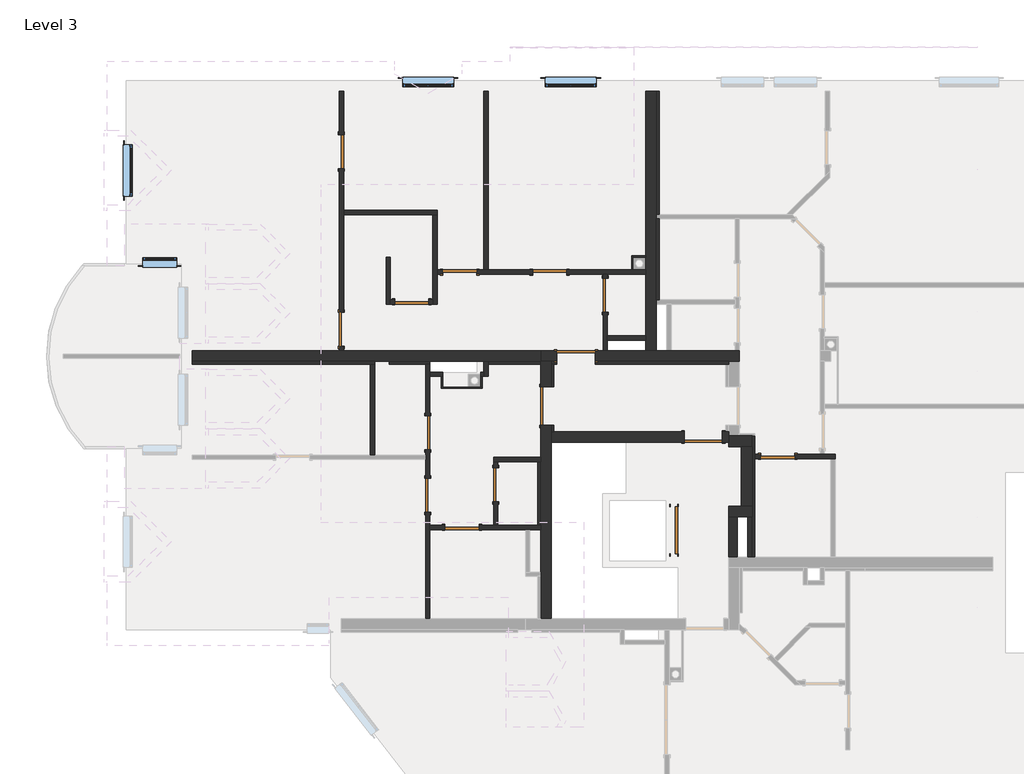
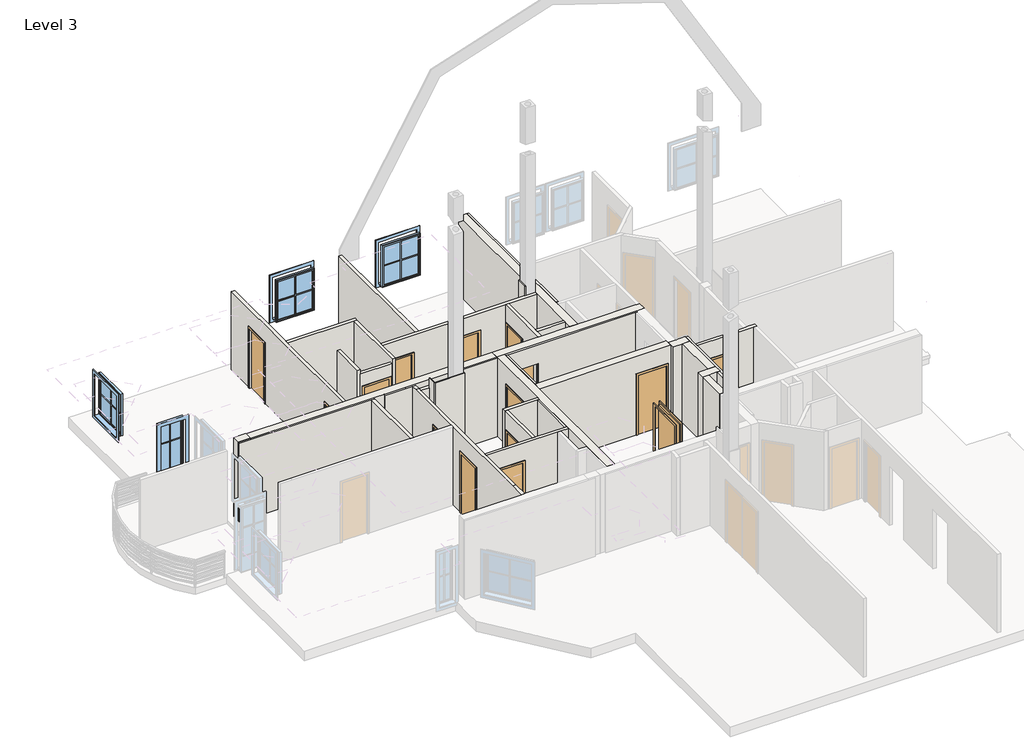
# One storey, part 2 of 5: 42 walls, 15 doors, 4 windows.
"""IFC4 building model written with IfcOpenShell, lengths in millimetres."""

from ifc_helpers import new_model, si_unit, frame, origin, place, context, project, spatial, polyline, outline, extrude, faceted_brep, transform, mapped, element, save
from components import standard_door_sd_1100x2000_1d62120a, standard_door_sd_800x2000_6a16926d, standard_door_sd_800x2000_80f4ff25, standard_door_sd_900x2000_a6683946, standard_door_sd_900x2000_4224ae2a, standard_window_with_mullions_80486b60, window_2_78aac011

model = new_model("IFC4")

# Units and contexts
model_context = context("Model", 3, world=origin())
ifc_project = project(units=[si_unit("LENGTHUNIT", "METRE", prefix="MILLI")], contexts=[model_context])

# Site, building, storey
site = spatial("IfcSite", under=ifc_project)
building = spatial("IfcBuilding", under=site)
storey = spatial("IfcBuildingStorey", under=building, Name="Level 3", Elevation=8850.0)

# Doors
placement = place(None, origin())
standard_door_sd_1100x2000_shape = standard_door_sd_1100x2000_1d62120a(model_context)
element("IfcDoor", 1, ObjectType="Standard Door : SD 1100x2000", at=placement, inside=storey, context=model_context, shape_type="MappedRepresentation", body=[
    mapped(standard_door_sd_1100x2000_shape, transform((277.8037835, 250.1290541, 8850.0), x_axis=(0.0, -1.0, 0.0), y_axis=(1.0, 0.0, 0.0), z_axis=(0.0, 0.0, 1.0))),
])
standard_door_sd_800x2000_shape = standard_door_sd_800x2000_6a16926d(model_context)
element("IfcDoor", 2, ObjectType="Standard Door : SD 800x2000", at=placement, inside=storey, context=model_context, shape_type="MappedRepresentation", body=[
    mapped(standard_door_sd_800x2000_shape, transform((2717.8037831, 1986.2076978, 8850.0), x_axis=(1.0, 0.0, 0.0), y_axis=(0.0, 1.0, 0.0), z_axis=(0.0, 0.0, 1.0))),
])
element("IfcDoor", 3, ObjectType="Standard Door : SD 800x2000", at=placement, inside=storey, context=model_context, shape_type="MappedRepresentation", body=[
    mapped(standard_door_sd_800x2000_shape, transform((-3907.1962165, 1323.3830769, 8850.0), x_axis=(0.0, -0.9999999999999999, 0.0), y_axis=(0.9999999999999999, 0.0, 0.0), z_axis=(0.0, 0.0, 1.0))),
])
element("IfcDoor", 4, ObjectType="Standard Door : SD 800x2000", at=placement, inside=storey, context=model_context, shape_type="MappedRepresentation", body=[
    mapped(standard_door_sd_800x2000_shape, transform((-5507.1962165, 1074.0740268, 8850.0), x_axis=(0.0, -1.0, 0.0), y_axis=(1.0, 0.0, 0.0), z_axis=(0.0, 0.0, 1.0))),
])
element("IfcDoor", 5, ObjectType="Standard Door : SD 800x2000", at=placement, inside=storey, context=model_context, shape_type="MappedRepresentation", body=[
    mapped(standard_door_sd_800x2000_shape, transform((-4702.5873933, 317.6290541, 8850.0), x_axis=(1.0, 0.0, 0.0), y_axis=(0.0, 1.0, 0.0), z_axis=(0.0, 0.0, 1.0))),
])
element("IfcDoor", 6, ObjectType="Standard Door : SD 800x2000", at=placement, inside=storey, context=model_context, shape_type="MappedRepresentation", body=[
    mapped(standard_door_sd_800x2000_shape, transform((-4754.8758057, 6317.6290541, 8850.0), x_axis=(-1.0, 0.0, 0.0), y_axis=(0.0, -1.0, 0.0), z_axis=(0.0, 0.0, 1.0))),
])
element("IfcDoor", 7, ObjectType="Standard Door : SD 800x2000", at=placement, inside=storey, context=model_context, shape_type="MappedRepresentation", body=[
    mapped(standard_door_sd_800x2000_shape, transform((-1337.1962165, 5771.0654579, 8850.0), x_axis=(0.0, -1.0, 0.0), y_axis=(1.0, 0.0, 0.0), z_axis=(0.0, 0.0, 1.0))),
])
element("IfcDoor", 8, ObjectType="Standard Door : SD 800x2000", at=placement, inside=storey, context=model_context, shape_type="MappedRepresentation", body=[
    mapped(standard_door_sd_800x2000_shape, transform((-5880.7146608, 5617.6290541, 8850.0), x_axis=(0.9999999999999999, 0.0, 0.0), y_axis=(0.0, 0.9999999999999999, 0.0), z_axis=(0.0, 0.0, 1.0))),
])
standard_door_sd_800x2000_2_shape = standard_door_sd_800x2000_80f4ff25(model_context)
element("IfcDoor", 9, ObjectType="Standard Door : SD 800x2000", at=placement, inside=storey, context=model_context, shape_type="MappedRepresentation", body=[
    mapped(standard_door_sd_800x2000_2_shape, transform((-5507.1962165, 2544.4942534, 8850.0), x_axis=(0.0, -1.0, 0.0), y_axis=(1.0, 0.0, 0.0), z_axis=(0.0, 0.0, 1.0))),
])
element("IfcDoor", 10, ObjectType="Standard Door : SD 800x2000", at=placement, inside=storey, context=model_context, shape_type="MappedRepresentation", body=[
    mapped(standard_door_sd_800x2000_2_shape, transform((-7537.1962165, 9151.243393, 8850.0), x_axis=(0.0, -1.0, 0.0), y_axis=(1.0, 0.0, 0.0), z_axis=(0.0, 0.0, 1.0))),
])
element("IfcDoor", 11, ObjectType="Standard Door : SD 800x2000", at=placement, inside=storey, context=model_context, shape_type="MappedRepresentation", body=[
    mapped(standard_door_sd_800x2000_2_shape, transform((-2646.4866772, 6317.6290541, 8850.0), x_axis=(1.0, 0.0, 0.0), y_axis=(0.0, 1.0, 0.0), z_axis=(0.0, 0.0, 1.0))),
])
element("IfcDoor", 12, ObjectType="Standard Door : SD 800x2000", at=placement, inside=storey, context=model_context, shape_type="MappedRepresentation", body=[
    mapped(standard_door_sd_800x2000_2_shape, transform((-7537.1962165, 4978.4889536, 8850.0), x_axis=(0.0, 1.0, 0.0), y_axis=(-1.0, 0.0, 0.0), z_axis=(0.0, 0.0, 1.0))),
])
standard_door_sd_900x2000_shape = standard_door_sd_900x2000_a6683946(model_context)
element("IfcDoor", 13, ObjectType="Standard Door : SD 900x2000", at=placement, inside=storey, context=model_context, shape_type="MappedRepresentation", body=[
    mapped(standard_door_sd_900x2000_shape, transform((-2732.1962165, 3171.1987133, 8850.0), x_axis=(0.0, -0.9999999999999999, 0.0), y_axis=(0.9999999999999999, 0.0, 0.0), z_axis=(0.0, 0.0, 1.0))),
])
element("IfcDoor", 14, ObjectType="Standard Door : SD 900x2000", at=placement, inside=storey, context=model_context, shape_type="MappedRepresentation", body=[
    mapped(standard_door_sd_900x2000_shape, transform((-2027.1962165, 4342.6290541, 8850.0), x_axis=(-1.0, 0.0, 0.0), y_axis=(0.0, -1.0, 0.0), z_axis=(0.0, 0.0, 1.0))),
])
standard_door_sd_900x2000_2_shape = standard_door_sd_900x2000_4224ae2a(model_context)
element("IfcDoor", 15, ObjectType="Standard Door : SD 900x2000", at=placement, inside=storey, context=model_context, shape_type="MappedRepresentation", body=[
    mapped(standard_door_sd_900x2000_2_shape, transform((967.0786115, 2442.6290541, 8850.0), x_axis=(-1.0, 0.0, 0.0), y_axis=(0.0, -1.0, 0.0), z_axis=(0.0, 0.0, 1.0))),
])

# Walls
element("IfcWall", 16, ObjectType="Interior - 100mm", at=placement, inside=storey, context=model_context, shape_type="Brep", body=[
    faceted_brep([(-1387.1962165, 4467.6290541, 8850.0), (-1387.1962165, 5371.0654579, 8850.0), (-1287.1962165, 5371.0654579, 8850.0), (-1287.1962165, 4817.6290541, 8850.0), (-1287.1962165, 4717.6290541, 8850.0), (-1287.1962165, 4467.6290541, 8850.0), (-1387.1962165, 6171.0654579, 8850.0), (-1387.1962165, 6267.6290541, 8850.0), (-1287.1962165, 6267.6290541, 8850.0), (-1287.1962165, 6171.0654579, 8850.0), (-1287.1962165, 5371.0654579, 10850.0), (-1287.1962165, 6171.0654579, 10850.0), (-1287.1962165, 6267.6290541, 11480.0), (-1287.1962165, 4817.6290541, 11480.0), (-1287.1962165, 4717.6290541, 11480.0), (-1287.1962165, 4467.6290541, 11480.0), (-1387.1962165, 5371.0654579, 10850.0), (-1387.1962165, 4467.6290541, 11480.0), (-1387.1962165, 6267.6290541, 11480.0), (-1387.1962165, 6171.0654579, 10850.0)], [[[0, 1, 2, 3, 4, 5]], [[6, 7, 8, 9]], [[5, 4, 3, 2, 10, 11, 9, 8, 12, 13, 14, 15]], [[16, 1, 0, 17, 18, 7, 6, 19]], [[5, 15, 17, 0]], [[12, 8, 7, 18]], [[15, 14, 13, 12, 18, 17]], [[10, 2, 1, 16]], [[11, 10, 16, 19]], [[9, 11, 19, 6]]]),
])
element("IfcWall", 17, ObjectType="Interior - 100mm", at=placement, inside=storey, context=model_context, shape_type="SweptSolid", body=[
    extrude(outline(polyline([(-387.1962165, 4717.6290541), (-1287.1962165, 4717.6290541), (-1287.1962165, 4817.6290541), (-387.1962165, 4817.6290541), (-387.1962165, 4717.6290541)])), frame((0.0, 0.0, 8850.0), z_axis=(0.0, 0.0, 1.0), x_axis=(1.0, 0.0, 0.0)), (0.0, 0.0, 1.0), 2630.0),
])
element("IfcWall", 18, ObjectType="Interior - 100mm", at=placement, inside=storey, context=model_context, shape_type="Brep", body=[
    faceted_brep([(-4187.1962165, 3967.6290541, 8850.0), (-4257.1962165, 3967.6290541, 8850.0), (-4257.1962165, 3967.6290541, 11480.0), (-4187.1962165, 3967.6290541, 11480.0), (-4187.1962165, 3867.6290541, 8850.0), (-4187.1962165, 3867.6290541, 11480.0), (-4257.1962165, 3867.6290541, 11480.0), (-4257.1962165, 3867.6290541, 8850.0), (-4227.1962165, 3867.6290541, 8850.0)], [[[0, 1, 2, 3]], [[4, 5, 6, 7, 8]], [[1, 0, 4, 8, 7]], [[2, 1, 7, 6]], [[0, 3, 5, 4]], [[3, 2, 6, 5]]]),
])
element("IfcWall", 19, ObjectType="Interior - 100mm", at=placement, inside=storey, context=model_context, shape_type="Brep", body=[
    faceted_brep([(-5157.1962165, 3967.6290541, 8850.0), (-5457.1962165, 3967.6290541, 8850.0), (-5457.1962165, 3967.6290541, 11480.0), (-5157.1962165, 3967.6290541, 11480.0), (-5157.1962165, 3867.6290541, 8850.0), (-5157.1962165, 3867.6290541, 11480.0), (-5457.1962165, 3867.6290541, 11480.0), (-5457.1962165, 3867.6290541, 8850.0), (-5187.1962165, 3867.6290541, 8850.0)], [[[0, 1, 2, 3]], [[4, 5, 6, 7, 8]], [[1, 0, 4, 8, 7]], [[0, 3, 5, 4]], [[2, 1, 7, 6]], [[3, 2, 6, 5]]]),
])
element("IfcWall", 20, ObjectType="Interior - 100mm", at=placement, inside=storey, context=model_context, shape_type="Brep", body=[
    faceted_brep([(-2857.1962165, 267.6290541, 8850.0), (-3107.1962165, 267.6290541, 8850.0), (-3207.1962165, 267.6290541, 8850.0), (-4302.5873933, 267.6290541, 8850.0), (-4302.5873933, 367.6290541, 8850.0), (-3957.1962165, 367.6290541, 8850.0), (-3857.1962165, 367.6290541, 8850.0), (-2922.1962165, 367.6290541, 8850.0), (-2857.1962165, 367.6290541, 8850.0), (-5102.5873933, 267.6290541, 8850.0), (-5457.1962165, 267.6290541, 8850.0), (-5457.1962165, 367.6290541, 8850.0), (-5102.5873933, 367.6290541, 8850.0), (-4302.5873933, 267.6290541, 10850.0), (-2857.1962165, 267.6290541, 11480.0), (-3107.1962165, 267.6290541, 11480.0), (-3207.1962165, 267.6290541, 11480.0), (-5457.1962165, 267.6290541, 11480.0), (-5102.5873933, 267.6290541, 10850.0), (-4302.5873933, 367.6290541, 10850.0), (-5102.5873933, 367.6290541, 10850.0), (-5457.1962165, 367.6290541, 11480.0), (-3957.1962165, 367.6290541, 11480.0), (-3857.1962165, 367.6290541, 11480.0), (-2922.1962165, 367.6290541, 11480.0), (-2857.1962165, 367.6290541, 11480.0)], [[[0, 1, 2, 3, 4, 5, 6, 7, 8]], [[9, 10, 11, 12]], [[13, 3, 2, 1, 0, 14, 15, 16, 17, 10, 9, 18]], [[8, 7, 6, 5, 4, 19, 20, 12, 11, 21, 22, 23, 24, 25]], [[14, 0, 8, 25]], [[10, 17, 21, 11]], [[17, 16, 15, 14, 25, 24, 23, 22, 21]], [[19, 4, 3, 13]], [[20, 19, 13, 18]], [[12, 20, 18, 9]]]),
])
element("IfcWall", 21, ObjectType="Interior - 100mm", at=placement, inside=storey, context=model_context, shape_type="Brep", body=[
    faceted_brep([(-4187.1962165, 4217.6290541, 8850.0), (-4187.1962165, 3967.6290541, 8850.0), (-4187.1962165, 3867.6290541, 8850.0), (-4187.1962165, 3867.6290541, 11480.0), (-4187.1962165, 3967.6290541, 11480.0), (-4187.1962165, 4217.6290541, 11480.0), (-4087.1962165, 4217.6290541, 8850.0), (-4087.1962165, 4217.6290541, 11480.0), (-4087.1962165, 4152.6290541, 11480.0), (-4087.1962165, 3867.6290541, 11480.0), (-4087.1962165, 3867.6290541, 8850.0), (-4087.1962165, 4152.6290541, 8850.0)], [[[0, 1, 2, 3, 4, 5]], [[6, 7, 8, 9, 10, 11]], [[2, 1, 0, 6, 11, 10]], [[3, 2, 10, 9]], [[0, 5, 7, 6]], [[5, 4, 3, 9, 8, 7]]]),
])
element("IfcWall", 22, ObjectType="Interior - 100mm", at=placement, inside=storey, context=model_context, shape_type="Brep", body=[
    faceted_brep([(-2857.1962165, 1967.6290541, 8850.0), (-3957.1962165, 1967.6290541, 8850.0), (-3957.1962165, 1967.6290541, 11480.0), (-2857.1962165, 1967.6290541, 11480.0), (-2857.1962165, 1867.6290541, 8850.0), (-2857.1962165, 1867.6290541, 11480.0), (-2922.1962165, 1867.6290541, 11480.0), (-3857.1962165, 1867.6290541, 11480.0), (-3957.1962165, 1867.6290541, 11480.0), (-3957.1962165, 1867.6290541, 8850.0), (-3857.1962165, 1867.6290541, 8850.0), (-2922.1962165, 1867.6290541, 8850.0)], [[[0, 1, 2, 3]], [[4, 5, 6, 7, 8, 9, 10, 11]], [[1, 0, 4, 11, 10, 9]], [[2, 1, 9, 8]], [[0, 3, 5, 4]], [[3, 2, 8, 7, 6, 5]]]),
])
element("IfcWall", 23, ObjectType="Interior - 100mm", at=placement, inside=storey, context=model_context, shape_type="SweptSolid", body=[
    extrude(outline(polyline([(923.3830769, 10850.0), (923.3830769, 8850.0), (367.6290541, 8850.0), (367.6290541, 11480.0), (1867.6290541, 11480.0), (1867.6290541, 8850.0), (1723.3830769, 8850.0), (1723.3830769, 10850.0), (923.3830769, 10850.0)])), frame((-3957.1962165, 0.0, 0.0), z_axis=(1.0, 0.0, 0.0), x_axis=(0.0, 1.0, 0.0)), (0.0, 0.0, 1.0), 100.0),
])
element("IfcWall", 24, ObjectType="Interior - 100mm", at=placement, inside=storey, context=model_context, shape_type="Brep", body=[
    faceted_brep([(4062.8037835, 1936.2076978, 8850.0), (3962.8037835, 1936.2076978, 8850.0), (3117.8037831, 1936.2076978, 8850.0), (3117.8037831, 2036.2076978, 8850.0), (3712.8037835, 2036.2076978, 8850.0), (3812.8037835, 2036.2076978, 8850.0), (4062.8037835, 2036.2076978, 8850.0), (2317.8037831, 1936.2076978, 8850.0), (2177.8037835, 1936.2076978, 8850.0), (2177.8037835, 2036.2076978, 8850.0), (2317.8037831, 2036.2076978, 8850.0), (3117.8037831, 1936.2076978, 10850.0), (4062.8037835, 1936.2076978, 11480.0), (3962.8037835, 1936.2076978, 11480.0), (2177.8037835, 1936.2076978, 11480.0), (2317.8037831, 1936.2076978, 10850.0), (3117.8037831, 2036.2076978, 10850.0), (2317.8037831, 2036.2076978, 10850.0), (2177.8037835, 2036.2076978, 11480.0), (3712.8037835, 2036.2076978, 11480.0), (3812.8037835, 2036.2076978, 11480.0), (4062.8037835, 2036.2076978, 11480.0)], [[[0, 1, 2, 3, 4, 5, 6]], [[7, 8, 9, 10]], [[11, 2, 1, 0, 12, 13, 14, 8, 7, 15]], [[6, 5, 4, 3, 16, 17, 10, 9, 18, 19, 20, 21]], [[8, 14, 18, 9]], [[12, 0, 6, 21]], [[14, 13, 12, 21, 20, 19, 18]], [[16, 3, 2, 11]], [[17, 16, 11, 15]], [[10, 17, 15, 7]]]),
])
element("IfcWall", 25, ObjectType="Interior - 100mm", at=placement, inside=storey, context=model_context, shape_type="SweptSolid", body=[
    extrude(outline(polyline([(2012.8037835, -382.3709459), (2012.8037835, 567.6290541), (2112.8037835, 567.6290541), (2112.8037835, -382.3709459), (2012.8037835, -382.3709459)])), frame((0.0, 0.0, 8850.0), z_axis=(0.0, 0.0, 1.0), x_axis=(1.0, 0.0, 0.0)), (0.0, 0.0, 1.0), 2630.0),
])
element("IfcWall", 26, ObjectType="Interior - 100mm", at=placement, inside=storey, context=model_context, shape_type="SweptSolid", body=[
    extrude(outline(polyline([(-6757.1962165, 4152.6290541), (-6757.1962165, 2017.6290541), (-6857.1962165, 2017.6290541), (-6857.1962165, 4152.6290541), (-6757.1962165, 4152.6290541)])), frame((0.0, 0.0, 8850.0), z_axis=(0.0, 0.0, 1.0), x_axis=(1.0, 0.0, 0.0)), (0.0, 0.0, 1.0), 2630.0),
])
element("IfcWall", 27, ObjectType="Interior - 100mm", at=placement, inside=storey, context=model_context, shape_type="Brep", body=[
    faceted_brep([(-5557.1962165, -1832.3709459, 8850.0), (-5557.1962165, 674.0740268, 8850.0), (-5457.1962165, 674.0740268, 8850.0), (-5457.1962165, 367.6290541, 8850.0), (-5457.1962165, 267.6290541, 8850.0), (-5457.1962165, -1832.3709459, 8850.0), (-5557.1962165, 1474.0740268, 8850.0), (-5557.1962165, 1917.6290541, 8850.0), (-5557.1962165, 2017.6290541, 8850.0), (-5557.1962165, 2144.4942534, 8850.0), (-5457.1962165, 2144.4942534, 8850.0), (-5457.1962165, 1474.0740268, 8850.0), (-5557.1962165, 2944.4942534, 8850.0), (-5557.1962165, 4152.6290541, 8850.0), (-5457.1962165, 4152.6290541, 8850.0), (-5457.1962165, 3967.6290541, 8850.0), (-5457.1962165, 3867.6290541, 8850.0), (-5457.1962165, 2944.4942534, 8850.0), (-5557.1962165, 2144.4942534, 10850.0), (-5557.1962165, 1474.0740268, 10850.0), (-5557.1962165, 674.0740268, 10850.0), (-5557.1962165, -1832.3709459, 11480.0), (-5557.1962165, -1338.1208451, 11480.0), (-5557.1962165, 1917.6290541, 11480.0), (-5557.1962165, 2017.6290541, 11480.0), (-5557.1962165, 3967.6290541, 11480.0), (-5557.1962165, 4152.6290541, 11480.0), (-5557.1962165, 2944.4942534, 10850.0), (-5457.1962165, 2144.4942534, 10850.0), (-5457.1962165, 2944.4942534, 10850.0), (-5457.1962165, 4152.6290541, 11480.0), (-5457.1962165, 3967.6290541, 11480.0), (-5457.1962165, 3867.6290541, 11480.0), (-5457.1962165, 367.6290541, 11480.0), (-5457.1962165, 267.6290541, 11480.0), (-5457.1962165, -1338.1208451, 11480.0), (-5457.1962165, -1832.3709459, 11480.0), (-5457.1962165, 674.0740268, 10850.0), (-5457.1962165, 1474.0740268, 10850.0)], [[[0, 1, 2, 3, 4, 5]], [[6, 7, 8, 9, 10, 11]], [[12, 13, 14, 15, 16, 17]], [[18, 9, 8, 7, 6, 19, 20, 1, 0, 21, 22, 23, 24, 25, 26, 13, 12, 27]], [[11, 10, 28, 29, 17, 16, 15, 14, 30, 31, 32, 33, 34, 35, 36, 5, 4, 3, 2, 37, 38]], [[13, 26, 30, 14]], [[21, 0, 5, 36]], [[22, 21, 36, 35]], [[26, 25, 31, 30]], [[25, 24, 23, 22, 35, 34, 33, 32, 31]], [[37, 2, 1, 20]], [[38, 37, 20, 19]], [[11, 38, 19, 6]], [[28, 10, 9, 18]], [[29, 28, 18, 27]], [[17, 29, 27, 12]]]),
])
element("IfcWall", 28, ObjectType="Interior - 100mm", at=placement, inside=storey, context=model_context, shape_type="Brep", body=[
    faceted_brep([(-7487.1962165, 8751.243393, 8850.0), (-7487.1962165, 7767.6290541, 8850.0), (-7487.1962165, 7667.6290541, 8850.0), (-7487.1962165, 5378.4889536, 8850.0), (-7587.1962165, 5378.4889536, 8850.0), (-7587.1962165, 8751.243393, 8850.0), (-7587.1962165, 9551.243393, 8850.0), (-7587.1962165, 10567.6290541, 8850.0), (-7487.1962165, 10567.6290541, 8850.0), (-7487.1962165, 9551.243393, 8850.0), (-7487.1962165, 4578.4889536, 8850.0), (-7487.1962165, 4467.6290541, 8850.0), (-7587.1962165, 4467.6290541, 8850.0), (-7587.1962165, 4578.4889536, 8850.0), (-7587.1962165, 5378.4889536, 10850.0), (-7587.1962165, 4578.4889536, 10850.0), (-7587.1962165, 4467.6290541, 11480.0), (-7587.1962165, 10567.6290541, 11480.0), (-7587.1962165, 9551.243393, 10850.0), (-7587.1962165, 8751.243393, 10850.0), (-7487.1962165, 5378.4889536, 10850.0), (-7487.1962165, 8751.243393, 10850.0), (-7487.1962165, 9551.243393, 10850.0), (-7487.1962165, 10567.6290541, 11480.0), (-7487.1962165, 7767.6290541, 11480.0), (-7487.1962165, 7667.6290541, 11480.0), (-7487.1962165, 5567.6290541, 11480.0), (-7487.1962165, 4467.6290541, 11480.0), (-7487.1962165, 4578.4889536, 10850.0)], [[[0, 1, 2, 3, 4, 5]], [[6, 7, 8, 9]], [[10, 11, 12, 13]], [[5, 4, 14, 15, 13, 12, 16, 17, 7, 6, 18, 19]], [[20, 3, 2, 1, 0, 21, 22, 9, 8, 23, 24, 25, 26, 27, 11, 10, 28]], [[7, 17, 23, 8]], [[16, 12, 11, 27]], [[17, 16, 27, 26, 25, 24, 23]], [[21, 0, 5, 19]], [[22, 21, 19, 18]], [[9, 22, 18, 6]], [[14, 4, 3, 20]], [[15, 14, 20, 28]], [[13, 15, 28, 10]]]),
])
element("IfcWall", 29, ObjectType="Interior - 100mm", at=placement, inside=storey, context=model_context, shape_type="Brep", body=[
    faceted_brep([(-7487.1962165, 7667.6290541, 8850.0), (-5387.1962165, 7667.6290541, 8850.0), (-5287.1962165, 7667.6290541, 8850.0), (-5287.1962165, 7667.6290541, 11480.0), (-5387.1962165, 7667.6290541, 11480.0), (-7487.1962165, 7667.6290541, 11480.0), (-7487.1962165, 7767.6290541, 8850.0), (-7487.1962165, 7767.6290541, 11480.0), (-5287.1962165, 7767.6290541, 11480.0), (-5287.1962165, 7767.6290541, 8850.0)], [[[0, 1, 2, 3, 4, 5]], [[6, 7, 8, 9]], [[2, 1, 0, 6, 9]], [[3, 2, 9, 8]], [[0, 5, 7, 6]], [[5, 4, 3, 8, 7]]]),
])
element("IfcWall", 30, ObjectType="Interior - 100mm", at=placement, inside=storey, context=model_context, shape_type="Brep", body=[
    faceted_brep([(-5387.1962165, 7667.6290541, 8850.0), (-5387.1962165, 5667.6290541, 8850.0), (-5387.1962165, 5567.6290541, 8850.0), (-5387.1962165, 5567.6290541, 11326.0), (-5387.1962165, 5567.6290541, 11480.0), (-5387.1962165, 7667.6290541, 11480.0), (-5287.1962165, 7667.6290541, 8850.0), (-5287.1962165, 7667.6290541, 11480.0), (-5287.1962165, 6367.6290541, 11480.0), (-5287.1962165, 6267.6290541, 11480.0), (-5287.1962165, 5567.6290541, 11480.0), (-5287.1962165, 5567.6290541, 8850.0), (-5287.1962165, 6267.6290541, 8850.0), (-5287.1962165, 6367.6290541, 8850.0)], [[[0, 1, 2, 3, 4, 5]], [[6, 7, 8, 9, 10, 11, 12, 13]], [[2, 1, 0, 6, 13, 12, 11]], [[4, 3, 2, 11, 10]], [[0, 5, 7, 6]], [[5, 4, 10, 9, 8, 7]]]),
])
element("IfcWall", 31, ObjectType="Interior - 100mm", at=placement, inside=storey, context=model_context, shape_type="SweptSolid", body=[
    extrude(outline(polyline([(10850.0, -5480.7146608), (8850.0, -5480.7146608), (8850.0, -5387.1962165), (11326.0, -5387.1962165), (11326.0, -6387.1962165), (8850.0, -6387.1962165), (8850.0, -6280.7146608), (10850.0, -6280.7146608), (10850.0, -5480.7146608)])), frame((0.0, 5567.6290541, 0.0), z_axis=(0.0, 1.0, 0.0), x_axis=(0.0, 0.0, 1.0)), (0.0, 0.0, 1.0), 100.0),
])
element("IfcWall", 32, ObjectType="Interior - 100mm", at=placement, inside=storey, context=model_context, shape_type="Brep", body=[
    faceted_brep([(-6387.1962165, 5567.6290541, 8850.0), (-6387.1962165, 5667.6290541, 8850.0), (-6387.1962165, 6667.6290541, 8850.0), (-6387.1962165, 6667.6290541, 11480.0), (-6387.1962165, 5567.6290541, 11480.0), (-6387.1962165, 5567.6290541, 11326.0), (-6487.1962165, 5567.6290541, 8850.0), (-6487.1962165, 5567.6290541, 11480.0), (-6487.1962165, 6667.6290541, 11480.0), (-6487.1962165, 6667.6290541, 8850.0)], [[[0, 1, 2, 3, 4, 5]], [[6, 7, 8, 9]], [[2, 1, 0, 6, 9]], [[3, 2, 9, 8]], [[4, 3, 8, 7]], [[0, 5, 4, 7, 6]]]),
])
element("IfcWall", 33, ObjectType="Interior - 100mm", at=placement, inside=storey, context=model_context, shape_type="Brep", body=[
    faceted_brep([(-5287.1962165, 6367.6290541, 8850.0), (-5154.8758057, 6367.6290541, 8850.0), (-5154.8758057, 6267.6290541, 8850.0), (-5287.1962165, 6267.6290541, 8850.0), (-387.1962165, 6267.6290541, 8850.0), (-1287.1962165, 6267.6290541, 8850.0), (-1387.1962165, 6267.6290541, 8850.0), (-2246.4866772, 6267.6290541, 8850.0), (-2246.4866772, 6367.6290541, 8850.0), (-717.1962165, 6367.6290541, 8850.0), (-687.1962165, 6367.6290541, 8850.0), (-387.1962165, 6367.6290541, 8850.0), (-3046.4866772, 6267.6290541, 8850.0), (-4354.8758057, 6267.6290541, 8850.0), (-4354.8758057, 6367.6290541, 8850.0), (-4187.1962165, 6367.6290541, 8850.0), (-4087.1962165, 6367.6290541, 8850.0), (-3046.4866772, 6367.6290541, 8850.0), (-2246.4866772, 6367.6290541, 10850.0), (-3046.4866772, 6367.6290541, 10850.0), (-4354.8758057, 6367.6290541, 10850.0), (-5154.8758057, 6367.6290541, 10850.0), (-5287.1962165, 6367.6290541, 11480.0), (-4187.1962165, 6367.6290541, 11480.0), (-4087.1962165, 6367.6290541, 11480.0), (-387.1962165, 6367.6290541, 11480.0), (-2246.4866772, 6267.6290541, 10850.0), (-387.1962165, 6267.6290541, 11480.0), (-1287.1962165, 6267.6290541, 11480.0), (-1387.1962165, 6267.6290541, 11480.0), (-5287.1962165, 6267.6290541, 11480.0), (-5154.8758057, 6267.6290541, 10850.0), (-4354.8758057, 6267.6290541, 10850.0), (-3046.4866772, 6267.6290541, 10850.0)], [[[0, 1, 2, 3]], [[4, 5, 6, 7, 8, 9, 10, 11]], [[12, 13, 14, 15, 16, 17]], [[11, 10, 9, 8, 18, 19, 17, 16, 15, 14, 20, 21, 1, 0, 22, 23, 24, 25]], [[26, 7, 6, 5, 4, 27, 28, 29, 30, 3, 2, 31, 32, 13, 12, 33]], [[11, 25, 27, 4]], [[22, 0, 3, 30]], [[25, 24, 23, 22, 30, 29, 28, 27]], [[31, 2, 1, 21]], [[32, 31, 21, 20]], [[13, 32, 20, 14]], [[18, 8, 7, 26]], [[19, 18, 26, 33]], [[17, 19, 33, 12]]]),
])
element("IfcWall", 34, ObjectType="Interior - 100mm", at=placement, inside=storey, context=model_context, shape_type="SweptSolid", body=[
    extrude(outline(polyline([(-4087.1962165, 10567.6290541), (-4087.1962165, 6367.6290541), (-4187.1962165, 6367.6290541), (-4187.1962165, 10567.6290541), (-4087.1962165, 10567.6290541)])), frame((0.0, 0.0, 8850.0), z_axis=(0.0, 0.0, 1.0), x_axis=(1.0, 0.0, 0.0)), (0.0, 0.0, 1.0), 2630.0),
])
element("IfcWall", 35, ObjectType="Interior - 200mm", at=placement, inside=storey, context=model_context, shape_type="SweptSolid", body=[
    extrude(outline(polyline([(1562.8087381, -382.3709459), (1562.8087381, 567.6290541), (1762.8087381, 567.6290541), (1762.8087381, -382.3709459), (1562.8087381, -382.3709459)])), frame((0.0, 0.0, 8850.0), z_axis=(0.0, 0.0, 1.0), x_axis=(1.0, 0.0, 0.0)), (0.0, 0.0, 1.0), 2630.0),
])
element("IfcWall", 36, ObjectType="Interior - 250mm", at=placement, inside=storey, context=model_context, shape_type="Brep", body=[
    faceted_brep([(-11037.1962165, 4217.6290541, 8850.0), (-4187.1962165, 4217.6290541, 8850.0), (-4087.1962165, 4217.6290541, 8850.0), (-2857.1962165, 4217.6290541, 8850.0), (-2857.1962165, 4217.6290541, 11480.0), (-4087.1962165, 4217.6290541, 11480.0), (-4187.1962165, 4217.6290541, 11480.0), (-5757.1962165, 4217.6290541, 11480.0), (-10656.4352243, 4217.6290541, 11480.0), (-10656.4352243, 4217.6290541, 11500.0), (-11037.1962165, 4217.6290541, 11500.0), (-11037.1962165, 4467.6290541, 8850.0), (-11037.1962165, 4467.6290541, 11500.0), (-10656.4352243, 4467.6290541, 11500.0), (-10656.4352243, 4467.6290541, 11480.0), (-7587.1962165, 4467.6290541, 11480.0), (-7487.1962165, 4467.6290541, 11480.0), (-2857.1962165, 4467.6290541, 11480.0), (-2857.1962165, 4467.6290541, 8850.0), (-7487.1962165, 4467.6290541, 8850.0), (-7587.1962165, 4467.6290541, 8850.0)], [[[0, 1, 2, 3, 4, 5, 6, 7, 8, 9, 10]], [[11, 12, 13, 14, 15, 16, 17, 18, 19, 20]], [[3, 2, 1, 0, 11, 20, 19, 18]], [[0, 10, 12, 11]], [[4, 3, 18, 17]], [[10, 9, 13, 12]], [[13, 9, 8, 14]], [[8, 7, 6, 5, 4, 17, 16, 15, 14]]]),
])
element("IfcWall", 37, ObjectType="Interior - 250mm", at=placement, inside=storey, context=model_context, shape_type="SweptSolid", body=[
    extrude(outline(polyline([(2112.8037835, 2217.6290541), (2112.8037835, 817.6290541), (1862.8037835, 817.6290541), (1862.8037835, 2217.6290541), (2112.8037835, 2217.6290541)])), frame((0.0, 0.0, 8850.0), z_axis=(0.0, 0.0, 1.0), x_axis=(1.0, 0.0, 0.0)), (0.0, 0.0, 1.0), 2630.0),
])
element("IfcWall", 38, ObjectType="Interior - 250mm", at=placement, inside=storey, context=model_context, shape_type="Brep", body=[
    faceted_brep([(2112.8037835, 2467.6290541, 8850.0), (1812.8037835, 2467.6290541, 8850.0), (1562.8037835, 2467.6290541, 8850.0), (1562.8037835, 2467.6290541, 11480.0), (1812.8037835, 2467.6290541, 11480.0), (2112.8037835, 2467.6290541, 11480.0), (2112.8037835, 2217.6290541, 8850.0), (2112.8037835, 2217.6290541, 11480.0), (1862.8037835, 2217.6290541, 11480.0), (1562.8037835, 2217.6290541, 11480.0), (1562.8037835, 2217.6290541, 8850.0), (1862.8037835, 2217.6290541, 8850.0), (1562.8037835, 2317.6290541, 8850.0), (1562.8037835, 2317.6290541, 11480.0)], [[[0, 1, 2, 3, 4, 5]], [[6, 7, 8, 9, 10, 11]], [[2, 1, 0, 6, 11, 10, 12]], [[3, 2, 12, 10, 9, 13]], [[0, 5, 7, 6]], [[5, 4, 3, 13, 9, 8, 7]]]),
])
element("IfcWall", 39, ObjectType="Interior - 250mm", at=placement, inside=storey, context=model_context, shape_type="Brep", body=[
    faceted_brep([(-2607.1962165, 2567.6290541, 8850.0), (-2542.1962165, 2567.6290541, 8850.0), (517.0786115, 2567.6290541, 8850.0), (517.0786115, 2317.6290541, 8850.0), (-2607.1962165, 2317.6290541, 8850.0), (1417.0786115, 2567.6290541, 8850.0), (1497.8037835, 2567.6290541, 8850.0), (1562.8037835, 2567.6290541, 8850.0), (1562.8037835, 2467.6290541, 8850.0), (1562.8037835, 2317.6290541, 8850.0), (1417.0786115, 2317.6290541, 8850.0), (517.0786115, 2567.6290541, 10850.0), (-2607.1962165, 2567.6290541, 11480.0), (-2542.1962165, 2567.6290541, 11480.0), (1497.8037835, 2567.6290541, 11480.0), (1562.8037835, 2567.6290541, 11480.0), (1417.0786115, 2567.6290541, 10850.0), (517.0786115, 2317.6290541, 10850.0), (1417.0786115, 2317.6290541, 10850.0), (1562.8037835, 2317.6290541, 11480.0), (-857.1962165, 2317.6290541, 11480.0), (-2607.1962165, 2317.6290541, 11480.0), (1562.8037835, 2467.6290541, 11480.0)], [[[0, 1, 2, 3, 4]], [[5, 6, 7, 8, 9, 10]], [[11, 2, 1, 0, 12, 13, 14, 15, 7, 6, 5, 16]], [[4, 3, 17, 18, 10, 9, 19, 20, 21]], [[7, 15, 22, 19, 9, 8]], [[12, 0, 4, 21]], [[15, 14, 13, 12, 21, 20, 19, 22]], [[17, 3, 2, 11]], [[18, 17, 11, 16]], [[10, 18, 16, 5]]]),
])
element("IfcWall", 40, ObjectType="Interior - 250mm", at=placement, inside=storey, context=model_context, shape_type="Brep", body=[
    faceted_brep([(-2857.1962165, -1832.3709459, 8850.0), (-2857.1962165, -832.3709459, 8850.0), (-2857.1962165, -732.3709459, 8850.0), (-2857.1962165, 267.6290541, 8850.0), (-2857.1962165, 367.6290541, 8850.0), (-2857.1962165, 1867.6290541, 8850.0), (-2857.1962165, 1967.6290541, 8850.0), (-2857.1962165, 2721.1987133, 8850.0), (-2607.1962165, 2721.1987133, 8850.0), (-2607.1962165, 2567.6290541, 8850.0), (-2607.1962165, 2317.6290541, 8850.0), (-2607.1962165, -1832.3709459, 8850.0), (-2857.1962165, 3621.1987133, 8850.0), (-2857.1962165, 4152.6290541, 8850.0), (-2857.1962165, 4217.6290541, 8850.0), (-2607.1962165, 4217.6290541, 8850.0), (-2607.1962165, 4152.6290541, 8850.0), (-2607.1962165, 3621.1987133, 8850.0), (-2857.1962165, 2721.1987133, 10850.0), (-2857.1962165, -1832.3709459, 11480.0), (-2857.1962165, -832.3709459, 11480.0), (-2857.1962165, -732.3709459, 11480.0), (-2857.1962165, 267.6290541, 11480.0), (-2857.1962165, 367.6290541, 11480.0), (-2857.1962165, 1867.6290541, 11480.0), (-2857.1962165, 1967.6290541, 11480.0), (-2857.1962165, 4152.6290541, 11480.0), (-2857.1962165, 4217.6290541, 11480.0), (-2857.1962165, 3621.1987133, 10850.0), (-2607.1962165, 2721.1987133, 10850.0), (-2607.1962165, 3621.1987133, 10850.0), (-2607.1962165, 4217.6290541, 11480.0), (-2607.1962165, 4152.6290541, 11480.0), (-2607.1962165, 2567.6290541, 11480.0), (-2607.1962165, 2317.6290541, 11480.0), (-2607.1962165, -1832.3709459, 11480.0)], [[[0, 1, 2, 3, 4, 5, 6, 7, 8, 9, 10, 11]], [[12, 13, 14, 15, 16, 17]], [[18, 7, 6, 5, 4, 3, 2, 1, 0, 19, 20, 21, 22, 23, 24, 25, 26, 27, 14, 13, 12, 28]], [[11, 10, 9, 8, 29, 30, 17, 16, 15, 31, 32, 33, 34, 35]], [[19, 0, 11, 35]], [[14, 27, 31, 15]], [[27, 26, 25, 24, 23, 22, 21, 20, 19, 35, 34, 33, 32, 31]], [[29, 8, 7, 18]], [[30, 29, 18, 28]], [[17, 30, 28, 12]]]),
])
element("IfcWall", 41, ObjectType="Interior - 250mm", at=placement, inside=storey, context=model_context, shape_type="Brep", body=[
    faceted_brep([(-387.1962165, 10567.6290541, 8850.0), (-387.1962165, 6697.6290541, 8850.0), (-387.1962165, 6667.6290541, 8850.0), (-387.1962165, 6367.6290541, 8850.0), (-387.1962165, 6267.6290541, 8850.0), (-387.1962165, 4817.6290541, 8850.0), (-387.1962165, 4717.6290541, 8850.0), (-387.1962165, 4467.6290541, 8850.0), (-387.1962165, 4467.6290541, 11480.0), (-387.1962165, 4717.6290541, 11480.0), (-387.1962165, 4817.6290541, 11480.0), (-387.1962165, 6267.6290541, 11480.0), (-387.1962165, 6367.6290541, 11480.0), (-387.1962165, 10567.6290541, 11480.0), (-137.1962165, 10567.6290541, 8850.0), (-137.1962165, 10567.6290541, 11480.0), (-137.1962165, 7667.6290541, 11480.0), (-137.1962165, 7567.6290541, 11480.0), (-137.1962165, 5667.6290541, 11480.0), (-137.1962165, 5567.6290541, 11480.0), (-137.1962165, 4467.6290541, 11480.0), (-137.1962165, 4467.6290541, 8850.0), (-137.1962165, 5567.6290541, 8850.0), (-137.1962165, 5667.6290541, 8850.0), (-137.1962165, 7567.6290541, 8850.0), (-137.1962165, 7667.6290541, 8850.0)], [[[0, 1, 2, 3, 4, 5, 6, 7, 8, 9, 10, 11, 12, 13]], [[14, 15, 16, 17, 18, 19, 20, 21, 22, 23, 24, 25]], [[7, 6, 5, 4, 3, 2, 1, 0, 14, 25, 24, 23, 22, 21]], [[8, 7, 21, 20]], [[0, 13, 15, 14]], [[13, 12, 11, 10, 9, 8, 20, 19, 18, 17, 16, 15]]]),
])
element("IfcWall", 42, ObjectType="Interior - 250mm", at=placement, inside=storey, context=model_context, shape_type="Brep", body=[
    faceted_brep([(2112.8037835, 817.6290541, 8850.0), (1862.8037835, 817.6290541, 8850.0), (1562.8087381, 817.6290541, 8850.0), (1562.8087381, 817.6290541, 11480.0), (1862.8037835, 817.6290541, 11480.0), (2112.8037835, 817.6290541, 11480.0), (2112.8037835, 567.6290541, 8850.0), (2112.8037835, 567.6290541, 11480.0), (2012.8037835, 567.6290541, 11480.0), (1762.8087381, 567.6290541, 11480.0), (1562.8087381, 567.6290541, 11480.0), (1562.8087381, 567.6290541, 8850.0), (1762.8087381, 567.6290541, 8850.0), (2012.8037835, 567.6290541, 8850.0)], [[[0, 1, 2, 3, 4, 5]], [[6, 7, 8, 9, 10, 11, 12, 13]], [[2, 1, 0, 6, 13, 12, 11]], [[0, 5, 7, 6]], [[3, 2, 11, 10]], [[5, 4, 3, 10, 9, 8, 7]]]),
])
element("IfcWall", 43, ObjectType="Interior - 250mm", at=placement, inside=storey, context=model_context, shape_type="Brep", body=[
    faceted_brep([(-2857.1962165, 4467.6290541, 8850.0), (-2477.1962165, 4467.6290541, 8850.0), (-2477.1962165, 4217.6290541, 8850.0), (-2607.1962165, 4217.6290541, 8850.0), (-2857.1962165, 4217.6290541, 8850.0), (-1577.1962165, 4467.6290541, 8850.0), (-1387.1962165, 4467.6290541, 8850.0), (-1287.1962165, 4467.6290541, 8850.0), (-387.1962165, 4467.6290541, 8850.0), (-137.1962165, 4467.6290541, 8850.0), (112.8037835, 4467.6290541, 8850.0), (212.8037835, 4467.6290541, 8850.0), (1712.8037835, 4467.6290541, 8850.0), (1812.8037835, 4467.6290541, 8850.0), (1812.8037835, 4217.6290541, 8850.0), (1562.8037835, 4217.6290541, 8850.0), (-1577.1962165, 4217.6290541, 8850.0), (-2477.1962165, 4217.6290541, 10850.0), (-1577.1962165, 4217.6290541, 10850.0), (1812.8037835, 4217.6290541, 11480.0), (1562.8037835, 4217.6290541, 11480.0), (-2607.1962165, 4217.6290541, 11480.0), (-2857.1962165, 4217.6290541, 11480.0), (-2477.1962165, 4467.6290541, 10850.0), (-2857.1962165, 4467.6290541, 11480.0), (-1387.1962165, 4467.6290541, 11480.0), (-1287.1962165, 4467.6290541, 11480.0), (-387.1962165, 4467.6290541, 11480.0), (-137.1962165, 4467.6290541, 11480.0), (112.8037835, 4467.6290541, 11480.0), (212.8037835, 4467.6290541, 11480.0), (1712.8037835, 4467.6290541, 11480.0), (1812.8037835, 4467.6290541, 11480.0), (-1577.1962165, 4467.6290541, 10850.0)], [[[0, 1, 2, 3, 4]], [[5, 6, 7, 8, 9, 10, 11, 12, 13, 14, 15, 16]], [[4, 3, 2, 17, 18, 16, 15, 14, 19, 20, 21, 22]], [[23, 1, 0, 24, 25, 26, 27, 28, 29, 30, 31, 32, 13, 12, 11, 10, 9, 8, 7, 6, 5, 33]], [[19, 14, 13, 32]], [[4, 22, 24, 0]], [[22, 21, 20, 19, 32, 31, 30, 29, 28, 27, 26, 25, 24]], [[17, 2, 1, 23]], [[18, 17, 23, 33]], [[16, 18, 33, 5]]]),
])
element("IfcWall", 44, ObjectType="Interior - 300mm", at=placement, inside=storey, context=model_context, shape_type="Brep", body=[
    faceted_brep([(-5187.1962165, 3867.6290541, 8850.0), (-5187.1962165, 3587.6290541, 8850.0), (-5187.1962165, 3587.6290541, 11800.0), (-5187.1962165, 3867.6290541, 11800.0), (-5157.1962165, 3867.6290541, 8850.0), (-5157.1962165, 3867.6290541, 11480.0), (-5157.1962165, 3867.6290541, 11800.0), (-5157.1962165, 3617.6290541, 11800.0), (-5157.1962165, 3587.6290541, 11800.0), (-5157.1962165, 3587.6290541, 8850.0), (-5157.1962165, 3617.6290541, 8850.0)], [[[0, 1, 2, 3]], [[4, 5, 6, 7, 8, 9, 10]], [[1, 0, 4, 10, 9]], [[3, 2, 8, 7, 6]], [[2, 1, 9, 8]], [[0, 3, 6, 5, 4]]]),
])
element("IfcWall", 45, ObjectType="Interior - 300mm", at=placement, inside=storey, context=model_context, shape_type="Brep", body=[
    faceted_brep([(-5157.1962165, 3587.6290541, 8850.0), (-4227.1962165, 3587.6290541, 8850.0), (-4227.1962165, 3587.6290541, 11800.0), (-5157.1962165, 3587.6290541, 11800.0), (-5157.1962165, 3617.6290541, 8850.0), (-5157.1962165, 3617.6290541, 11800.0), (-4257.1962165, 3617.6290541, 11800.0), (-4227.1962165, 3617.6290541, 11800.0), (-4227.1962165, 3617.6290541, 8850.0), (-4257.1962165, 3617.6290541, 8850.0)], [[[0, 1, 2, 3]], [[4, 5, 6, 7, 8, 9]], [[1, 0, 4, 9, 8]], [[3, 2, 7, 6, 5]], [[2, 1, 8, 7]], [[0, 3, 5, 4]]]),
])
element("IfcWall", 46, ObjectType="Interior - 300mm", at=placement, inside=storey, context=model_context, shape_type="Brep", body=[
    faceted_brep([(-4227.1962165, 3617.6290541, 8850.0), (-4227.1962165, 3867.6290541, 8850.0), (-4227.1962165, 3867.6290541, 11800.0), (-4227.1962165, 3617.6290541, 11800.0), (-4257.1962165, 3617.6290541, 8850.0), (-4257.1962165, 3617.6290541, 11800.0), (-4257.1962165, 3867.6290541, 11800.0), (-4257.1962165, 3867.6290541, 11480.0), (-4257.1962165, 3867.6290541, 8850.0)], [[[0, 1, 2, 3]], [[4, 5, 6, 7, 8]], [[1, 0, 4, 8]], [[3, 2, 6, 5]], [[0, 3, 5, 4]], [[2, 1, 8, 7, 6]]]),
])
element("IfcWall", 47, ObjectType="Interior - 300mm", at=placement, inside=storey, context=model_context, shape_type="Brep", body=[
    faceted_brep([(-687.1962165, 6367.6290541, 8850.0), (-687.1962165, 6667.6290541, 8850.0), (-687.1962165, 6697.6290541, 8850.0), (-687.1962165, 6697.6290541, 11800.0), (-687.1962165, 6667.6290541, 11800.0), (-687.1962165, 6367.6290541, 11800.0), (-717.1962165, 6367.6290541, 8850.0), (-717.1962165, 6367.6290541, 11800.0), (-717.1962165, 6697.6290541, 11800.0), (-717.1962165, 6697.6290541, 8850.0)], [[[0, 1, 2, 3, 4, 5]], [[6, 7, 8, 9]], [[2, 1, 0, 6, 9]], [[5, 4, 3, 8, 7]], [[3, 2, 9, 8]], [[0, 5, 7, 6]]]),
])
element("IfcWall", 48, ObjectType="Interior - 300mm", at=placement, inside=storey, context=model_context, shape_type="SweptSolid", body=[
    extrude(outline(polyline([(-387.1962165, 6667.6290541), (-687.1962165, 6667.6290541), (-687.1962165, 6697.6290541), (-387.1962165, 6697.6290541), (-387.1962165, 6667.6290541)])), frame((0.0, 0.0, 8850.0), z_axis=(0.0, 0.0, 1.0), x_axis=(1.0, 0.0, 0.0)), (0.0, 0.0, 1.0), 2950.0),
])
element("IfcWall", 49, ObjectType="Interior - 65mm", at=placement, inside=storey, context=model_context, shape_type="SweptSolid", body=[
    extrude(outline(polyline([(-2922.1962165, 367.6290541), (-2922.1962165, 1867.6290541), (-2857.1962165, 1867.6290541), (-2857.1962165, 367.6290541), (-2922.1962165, 367.6290541)])), frame((0.0, 0.0, 8850.0), z_axis=(0.0, 0.0, 1.0), x_axis=(1.0, 0.0, 0.0)), (0.0, 0.0, 1.0), 2630.0),
])
element("IfcWall", 50, ObjectType="Interior - 65mm", at=placement, inside=storey, context=model_context, shape_type="Brep", body=[
    faceted_brep([(-2607.1962165, 4217.6290541, 8850.0), (-2477.1962165, 4217.6290541, 8850.0), (-2477.1962165, 4152.6290541, 8850.0), (-2542.1962165, 4152.6290541, 8850.0), (-2607.1962165, 4152.6290541, 8850.0), (-1577.1962165, 4217.6290541, 8850.0), (1562.8037835, 4217.6290541, 8850.0), (1562.8037835, 4152.6290541, 8850.0), (1497.8037835, 4152.6290541, 8850.0), (-1577.1962165, 4152.6290541, 8850.0), (-2477.1962165, 4152.6290541, 10850.0), (-1577.1962165, 4152.6290541, 10850.0), (1562.8037835, 4152.6290541, 11480.0), (1497.8037835, 4152.6290541, 11480.0), (-2542.1962165, 4152.6290541, 11480.0), (-2607.1962165, 4152.6290541, 11480.0), (-2477.1962165, 4217.6290541, 10850.0), (-2607.1962165, 4217.6290541, 11480.0), (1562.8037835, 4217.6290541, 11480.0), (-1577.1962165, 4217.6290541, 10850.0)], [[[0, 1, 2, 3, 4]], [[5, 6, 7, 8, 9]], [[4, 3, 2, 10, 11, 9, 8, 7, 12, 13, 14, 15]], [[16, 1, 0, 17, 18, 6, 5, 19]], [[12, 7, 6, 18]], [[4, 15, 17, 0]], [[15, 14, 13, 12, 18, 17]], [[10, 2, 1, 16]], [[11, 10, 16, 19]], [[9, 11, 19, 5]]]),
])
element("IfcWall", 51, ObjectType="Interior - 65mm", at=placement, inside=storey, context=model_context, shape_type="Brep", body=[
    faceted_brep([(2112.8037835, 2457.6290541, 8850.0), (2112.8037835, -382.3709459, 8850.0), (2112.8037835, -382.3709459, 11480.0), (2112.8037835, 2457.6290541, 11480.0), (2177.8037835, 2457.6290541, 8850.0), (2177.8037835, 2457.6290541, 11480.0), (2177.8037835, 2036.2076978, 11480.0), (2177.8037835, 1936.2076978, 11480.0), (2177.8037835, -382.3709459, 11480.0), (2177.8037835, -382.3709459, 8850.0), (2177.8037835, 1936.2076978, 8850.0), (2177.8037835, 2036.2076978, 8850.0)], [[[0, 1, 2, 3]], [[4, 5, 6, 7, 8, 9, 10, 11]], [[1, 0, 4, 11, 10, 9]], [[0, 3, 5, 4]], [[2, 1, 9, 8]], [[3, 2, 8, 7, 6, 5]]]),
])
element("IfcWall", 52, ObjectType="Interior - 65mm", at=placement, inside=storey, context=model_context, shape_type="SweptSolid", body=[
    extrude(outline(polyline([(-137.1962165, 7674.6749556), (-137.1962165, 10567.6290541), (-72.1962165, 10567.6290541), (-72.1962165, 7674.6749556), (-137.1962165, 7674.6749556)])), frame((0.0, 0.0, 8850.0), z_axis=(0.0, 0.0, 1.0), x_axis=(1.0, 0.0, 0.0)), (0.0, 0.0, 1.0), 2630.0),
])
element("IfcWall", 53, ObjectType="Interior - 65mm", at=placement, inside=storey, context=model_context, shape_type="SweptSolid", body=[
    extrude(outline(polyline([(-137.1962165, 5669.6052715), (-137.1962165, 7567.6290541), (-72.1962165, 7567.6290541), (-72.1962165, 5669.6052715), (-137.1962165, 5669.6052715)])), frame((0.0, 0.0, 8850.0), z_axis=(0.0, 0.0, 1.0), x_axis=(1.0, 0.0, 0.0)), (0.0, 0.0, 1.0), 2630.0),
])
element("IfcWall", 54, ObjectType="Interior - 65mm", at=placement, inside=storey, context=model_context, shape_type="Brep", body=[
    faceted_brep([(-5457.1962165, 4217.6290541, 8850.0), (-6411.9088466, 4217.6290541, 8850.0), (-6411.9088466, 4217.6290541, 11480.0), (-5757.1962165, 4217.6290541, 11480.0), (-5457.1962165, 4217.6290541, 11480.0), (-5457.1962165, 4152.6290541, 8850.0), (-5457.1962165, 4152.6290541, 11480.0), (-5557.1962165, 4152.6290541, 11480.0), (-5757.1962165, 4152.6290541, 11480.0), (-6411.9088466, 4152.6290541, 11480.0), (-6411.9088466, 4152.6290541, 8850.0), (-5557.1962165, 4152.6290541, 8850.0)], [[[0, 1, 2, 3, 4]], [[5, 6, 7, 8, 9, 10, 11]], [[1, 0, 5, 11, 10]], [[2, 1, 10, 9]], [[0, 4, 6, 5]], [[4, 3, 8, 7, 6]], [[3, 2, 9, 8]]]),
])
element("IfcWall", 55, ObjectType="Interior - 65mm", at=placement, inside=storey, context=model_context, shape_type="SweptSolid", body=[
    extrude(outline(polyline([(2721.1987133, 10850.0), (2721.1987133, 8850.0), (2567.6290541, 8850.0), (2567.6290541, 11480.0), (4152.6290541, 11480.0), (4152.6290541, 8850.0), (3621.1987133, 8850.0), (3621.1987133, 10850.0), (2721.1987133, 10850.0)])), frame((-2607.1962165, 0.0, 0.0), z_axis=(1.0, 0.0, 0.0), x_axis=(0.0, 1.0, 0.0)), (0.0, 0.0, 1.0), 65.0),
])
element("IfcWall", 56, ObjectType="Interior - 65mm", at=placement, inside=storey, context=model_context, shape_type="Brep", body=[
    faceted_brep([(-6757.1962165, 4217.6290541, 8850.0), (-11037.1962165, 4217.6290541, 8850.0), (-11037.1962165, 4217.6290541, 11480.0), (-10656.4352243, 4217.6290541, 11480.0), (-6757.1962165, 4217.6290541, 11480.0), (-6757.1962165, 4152.6290541, 8850.0), (-6757.1962165, 4152.6290541, 11480.0), (-6857.1962165, 4152.6290541, 11480.0), (-10656.4352243, 4152.6290541, 11480.0), (-11037.1962165, 4152.6290541, 11480.0), (-11037.1962165, 4152.6290541, 8850.0), (-6857.1962165, 4152.6290541, 8850.0)], [[[0, 1, 2, 3, 4]], [[5, 6, 7, 8, 9, 10, 11]], [[1, 0, 5, 11, 10]], [[0, 4, 6, 5]], [[2, 1, 10, 9]], [[3, 2, 9, 8]], [[4, 3, 8, 7, 6]]]),
])
element("IfcWall", 57, ObjectType="Interior - 65mm", at=placement, inside=storey, context=model_context, shape_type="SweptSolid", body=[
    extrude(outline(polyline([(-2857.1962165, 4152.6290541), (-4087.1962165, 4152.6290541), (-4087.1962165, 4217.6290541), (-2857.1962165, 4217.6290541), (-2857.1962165, 4152.6290541)])), frame((0.0, 0.0, 8850.0), z_axis=(0.0, 0.0, 1.0), x_axis=(1.0, 0.0, 0.0)), (0.0, 0.0, 1.0), 2630.0),
])

# Windows
standard_window_with_mullions_shape = standard_window_with_mullions_80486b60(model_context)
element("IfcWindow", 58, ObjectType="Standard Window with mullions : 1200/1400", at=placement, inside=storey, context=model_context, shape_type="MappedRepresentation", body=[
    mapped(standard_window_with_mullions_shape, transform((-12487.1962165, 8705.3927399, 8850.0), x_axis=(0.0, 1.0, 0.0), y_axis=(-1.0, 0.0, 0.0), z_axis=(0.0, 0.0, 1.0))),
])
element("IfcWindow", 59, ObjectType="Standard Window with mullions : 1200/1400", at=placement, inside=storey, context=model_context, shape_type="MappedRepresentation", body=[
    mapped(standard_window_with_mullions_shape, transform((-5500.2469102, 10717.6290541, 8850.0), x_axis=(1.0, 0.0, 0.0), y_axis=(0.0, 1.0, 0.0), z_axis=(0.0, 0.0, 1.0))),
])
element("IfcWindow", 60, ObjectType="Standard Window with mullions : 1200/1400", at=placement, inside=storey, context=model_context, shape_type="MappedRepresentation", body=[
    mapped(standard_window_with_mullions_shape, transform((-2148.3679777, 10717.6290541, 8850.0), x_axis=(1.0, 0.0, 0.0), y_axis=(0.0, 1.0, 0.0), z_axis=(0.0, 0.0, 1.0))),
])
window_2_shape = window_2_78aac011(model_context)
element("IfcWindow", 61, ObjectType="Window 2 : 800/2200", at=placement, inside=storey, context=model_context, shape_type="MappedRepresentation", body=[
    mapped(window_2_shape, transform((-11807.370388, 6617.6290541, 8850.0), x_axis=(1.0, 0.0, 0.0), y_axis=(0.0, 1.0, 0.0), z_axis=(0.0, 0.0, 1.0))),
])

save(model, "model.ifc")
